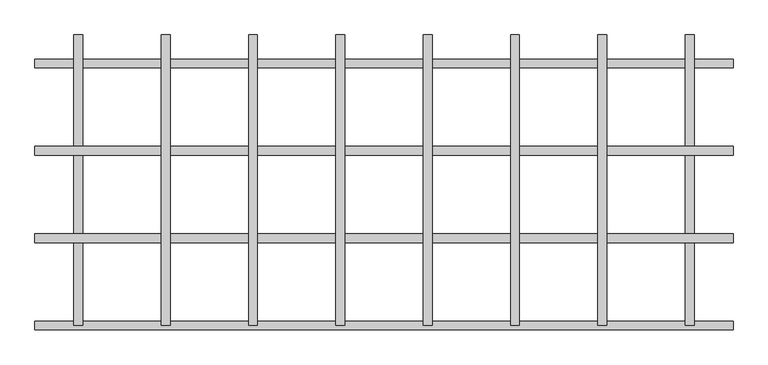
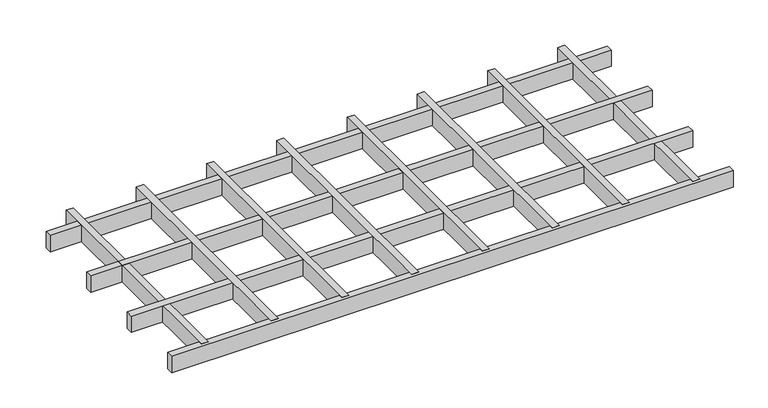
"""IFC4 building model written with IfcOpenShell, lengths in millimetres: proxy geometry, durlum_GEO_panel : durlum_GEO_15_width_cut."""

import ifcopenshell
import ifcopenshell.guid

model = None  # the IFC model being written
_history = None  # IfcOwnerHistory: only IFC2X3 demands one
_inside = {}  # id of a spatial element -> (the spatial element, [elements in it])
_under = {}  # id of a project, library or spatial element -> (it, [spatial elements below it])
_declared = {}  # id of a project -> (the project, [libraries it declares])
_typed = {}  # id of a type object -> (the type object, [elements of that type])
_made_of = {}  # id of a material, layer set ... -> (it, [elements and type objects made of it])


def new_model(schema):
    """Start an empty IFC model of exactly this schema.

    Asked for "IFC4X3", IfcOpenShell would pick the latest addendum, in which some entities
    have other attributes; the version numbers below select the first issue.
    IFC2X3 requires an IfcOwnerHistory on every rooted entity: one is made here for all.
    """
    global model, _history
    if schema == "IFC4X3":
        model = ifcopenshell.file(schema_version=(4, 3, 0, 0))
    else:
        model = ifcopenshell.file(schema=schema)
    _inside.clear()
    _under.clear()
    _declared.clear()
    _typed.clear()
    _made_of.clear()
    _history = None
    if model.schema == "IFC2X3":
        org = make("IfcOrganization", Name="unknown")
        user = make(
            "IfcPersonAndOrganization",
            ThePerson=make("IfcPerson", FamilyName="unknown"),
            TheOrganization=org,
        )
        app = make(
            "IfcApplication",
            ApplicationDeveloper=org,
            Version="unknown",
            ApplicationFullName="unknown",
            ApplicationIdentifier="unknown",
        )
        _history = make(
            "IfcOwnerHistory",
            OwningUser=user,
            OwningApplication=app,
            ChangeAction="ADDED",
            CreationDate=0,
        )
    return model


def make(cls, **values):
    """One entity of the class cls with the attributes given. An attribute that is None is left unset."""
    return model.create_entity(
        cls, **{name: value for name, value in values.items() if value is not None}
    )


def rooted(cls, **values):
    """An entity with a GlobalId (a new one), such as an element, a storey or a relation."""
    return make(cls, GlobalId=ifcopenshell.guid.new(), OwnerHistory=_history, **values)


def si_unit(unit_type, name, prefix=None):
    """IfcSIUnit, for example si_unit("LENGTHUNIT", "METRE", prefix="MILLI")."""
    return make("IfcSIUnit", UnitType=unit_type, Prefix=prefix, Name=name)


def assignment(units):
    """IfcUnitAssignment: the units of a project."""
    return None if units is None else make("IfcUnitAssignment", Units=units)


def point(xyz):
    """IfcCartesianPoint."""
    return None if xyz is None else make("IfcCartesianPoint", Coordinates=xyz)


def direction(xyz):
    """IfcDirection."""
    return None if xyz is None else make("IfcDirection", DirectionRatios=xyz)


def frame(location, z_axis=None, x_axis=None):
    """IfcAxis2Placement3D, a coordinate frame: its origin and axes. An axis left out is left unset."""
    return make(
        "IfcAxis2Placement3D",
        Location=point(location),
        Axis=direction(z_axis),
        RefDirection=direction(x_axis),
    )


def origin():
    """The frame at (0, 0, 0) with its axes left unset."""
    return frame((0.0, 0.0, 0.0))


def origin_with_axes():
    """The frame at (0, 0, 0) with the z axis (0, 0, 1) and the x axis (1, 0, 0) written out."""
    return frame((0.0, 0.0, 0.0), z_axis=(0.0, 0.0, 1.0), x_axis=(1.0, 0.0, 0.0))


def place(relative_to, where):
    """IfcLocalPlacement: puts the frame where relative to a parent placement (None: the world)."""
    return make(
        "IfcLocalPlacement", PlacementRelTo=relative_to, RelativePlacement=where
    )


def context(
    kind, dimensions, precision=None, world=None, true_north=None, identifier=None
):
    """IfcGeometricRepresentationContext, for example the 3D "Model" context."""
    return make(
        "IfcGeometricRepresentationContext",
        ContextIdentifier=identifier,
        ContextType=kind,
        CoordinateSpaceDimension=dimensions,
        Precision=precision,
        WorldCoordinateSystem=world,
        TrueNorth=true_north,
    )


def project(units=None, contexts=None):
    """IfcProject with its units and contexts."""
    return rooted(
        "IfcProject",
        Name="project",
        RepresentationContexts=contexts,
        UnitsInContext=assignment(units),
    )


def spatial(cls, under=None, at=None, **own):
    """A site, building, storey or space (cls), placed at a placement, below another one or the project."""
    s = rooted(cls, ObjectPlacement=at, **own)
    if under is not None:
        _under.setdefault(under.id(), (under, []))[1].append(s)
    return s


def polyline(points):
    """IfcPolyline through the points."""
    return make("IfcPolyline", Points=[point(p) for p in points])


def outline(outer, holes=None, kind="AREA"):
    """IfcArbitraryClosedProfileDef: a profile drawn as a closed curve; with holes, ...WithVoids."""
    if holes is None:
        return make("IfcArbitraryClosedProfileDef", ProfileType=kind, OuterCurve=outer)
    return make(
        "IfcArbitraryProfileDefWithVoids",
        ProfileType=kind,
        OuterCurve=outer,
        InnerCurves=holes,
    )


def extrude(swept, where, along, depth):
    """IfcExtrudedAreaSolid: the profile swept, set in the frame where, extruded along a direction by depth."""
    return make(
        "IfcExtrudedAreaSolid",
        SweptArea=swept,
        Position=where,
        ExtrudedDirection=direction(along),
        Depth=depth,
    )


def shape(context_of_items, identifier, shape_type, items):
    """IfcShapeRepresentation: the items that make up one representation, for example the "Body"."""
    return make(
        "IfcShapeRepresentation",
        ContextOfItems=context_of_items,
        RepresentationIdentifier=identifier,
        RepresentationType=shape_type,
        Items=items,
    )


def source(mapping_origin, context_of_items, identifier, shape_type, items):
    """IfcRepresentationMap: a shape defined once, which mapped items show again and again."""
    return make(
        "IfcRepresentationMap",
        MappingOrigin=mapping_origin,
        MappedRepresentation=shape(context_of_items, identifier, shape_type, items),
    )


def transform(
    local_origin,
    x_axis=None,
    y_axis=None,
    z_axis=None,
    scale=None,
    scale2=None,
    scale3=None,
    uniform=True,
):
    """IfcCartesianTransformationOperator3D, or its non-uniform kind. x_axis, y_axis, z_axis: its Axis1, 2, 3."""
    if uniform:
        return make(
            "IfcCartesianTransformationOperator3D",
            Axis1=direction(x_axis),
            Axis2=direction(y_axis),
            LocalOrigin=point(local_origin),
            Scale=scale,
            Axis3=direction(z_axis),
        )
    return make(
        "IfcCartesianTransformationOperator3DnonUniform",
        Axis1=direction(x_axis),
        Axis2=direction(y_axis),
        LocalOrigin=point(local_origin),
        Scale=scale,
        Axis3=direction(z_axis),
        Scale2=scale2,
        Scale3=scale3,
    )


def mapped(mapping_source, mapping_target):
    """IfcMappedItem: shows the shape of a source again, moved by a transform."""
    return make(
        "IfcMappedItem", MappingSource=mapping_source, MappingTarget=mapping_target
    )


def made_of(thing, what):
    """Note that an element or type object is made of a material, layer set ...; save() writes the relation."""
    if what is not None:
        _made_of.setdefault(what.id(), (what, []))[1].append(thing)
    return thing


def element(
    cls,
    number,
    at=None,
    inside=None,
    cuts=None,
    type_object=None,
    material=None,
    context=None,
    identifier="Body",
    shape_type=None,
    held_by="IfcProductDefinitionShape",
    body=None,
    shapes=None,
    **own,
):
    """One element of the class cls, such as IfcWall. Its Tag is "e" and its number.

    at: its placement. inside: the storey or other place that contains it. cuts: it is an
    opening in that element (IfcRelVoidsElement). A single representation is given by context,
    identifier, shape_type and body (its items); several are given by shapes. held_by: the class
    of the entity that holds the representations. save() writes the other relations.
    """
    e = rooted(cls, Tag="e%d" % number, ObjectPlacement=at, **own)
    if body is not None:
        shapes = [shape(context, identifier, shape_type, body)]
    if shapes is not None:
        e.Representation = make(held_by, Representations=shapes)
    if inside is not None:
        _inside.setdefault(inside.id(), (inside, []))[1].append(e)
    if cuts is not None:
        rooted(
            "IfcRelVoidsElement", RelatingBuildingElement=cuts, RelatedOpeningElement=e
        )
    if type_object is not None:
        _typed.setdefault(type_object.id(), (type_object, []))[1].append(e)
    return made_of(e, material)


def aggregate(whole, parts):
    """IfcRelAggregates: a whole, such as a stair, and the parts it consists of."""
    return rooted("IfcRelAggregates", RelatingObject=whole, RelatedObjects=parts)


def save(model, path):
    """Write the relations noted so far, then the file.

    IfcRelAggregates (storeys below a building ...), IfcRelContainedInSpatialStructure (elements
    in a storey), IfcRelDefinesByType, IfcRelAssociatesMaterial and IfcRelDeclares: one each for
    every whole, place, type object, material and project.
    """
    for whole, parts in _under.values():
        aggregate(whole, parts)
    for where, things in _inside.values():
        rooted(
            "IfcRelContainedInSpatialStructure",
            RelatedElements=things,
            RelatingStructure=where,
        )
    for kind, things in _typed.values():
        rooted("IfcRelDefinesByType", RelatedObjects=things, RelatingType=kind)
    for what, things in _made_of.values():
        rooted("IfcRelAssociatesMaterial", RelatedObjects=things, RelatingMaterial=what)
    for by, libraries in _declared.values():
        rooted("IfcRelDeclares", RelatingContext=by, RelatedDefinitions=libraries)
    model.write(path)


def generic_models_2927a7a0(model_context):
    return source(origin(), model_context, "Body", "SweptSolid", [
        extrude(outline(polyline([(367.5, 249.5), (382.5, 249.5), (382.5, -249.5), (367.5, -249.5), (367.5, 249.5)])), origin_with_axes(), (0.0, 0.0, 1.0), 37.0),
        extrude(outline(polyline([(217.5, 249.5), (232.5, 249.5), (232.5, -249.5), (217.5, -249.5), (217.5, 249.5)])), origin_with_axes(), (0.0, 0.0, 1.0), 37.0),
        extrude(outline(polyline([(67.5, 249.5), (82.5, 249.5), (82.5, -249.5), (67.5, -249.5), (67.5, 249.5)])), origin_with_axes(), (0.0, 0.0, 1.0), 37.0),
        extrude(outline(polyline([(-82.5, 249.5), (-67.5, 249.5), (-67.5, -249.5), (-82.5, -249.5), (-82.5, 249.5)])), origin_with_axes(), (0.0, 0.0, 1.0), 37.0),
        extrude(outline(polyline([(-232.5, 249.5), (-217.5, 249.5), (-217.5, -249.5), (-232.5, -249.5), (-232.5, 249.5)])), origin_with_axes(), (0.0, 0.0, 1.0), 37.0),
        extrude(outline(polyline([(-382.5, 249.5), (-367.5, 249.5), (-367.5, -249.5), (-382.5, -249.5), (-382.5, 249.5)])), origin_with_axes(), (0.0, 0.0, 1.0), 37.0),
        extrude(outline(polyline([(599.5, -92.0), (599.5, -107.0), (-599.5, -107.0), (-599.5, -92.0), (599.5, -92.0)])), origin_with_axes(), (0.0, 0.0, 1.0), 37.0),
        extrude(outline(polyline([(599.5, 58.0), (599.5, 43.0), (-599.5, 43.0), (-599.5, 58.0), (599.5, 58.0)])), origin_with_axes(), (0.0, 0.0, 1.0), 37.0),
        extrude(outline(polyline([(517.5, 249.5), (532.5, 249.5), (532.5, -249.5), (517.5, -249.5), (517.5, 249.5)])), origin_with_axes(), (0.0, 0.0, 1.0), 37.0),
        extrude(outline(polyline([(-532.5, 249.5), (-517.5, 249.5), (-517.5, -249.5), (-532.5, -249.5), (-532.5, 249.5)])), origin_with_axes(), (0.0, 0.0, 1.0), 37.0),
        extrude(outline(polyline([(599.5, -242.0), (599.5, -257.0), (-599.5, -257.0), (-599.5, -242.0), (599.5, -242.0)])), origin_with_axes(), (0.0, 0.0, 1.0), 37.0),
        extrude(outline(polyline([(599.5, 208.0), (599.5, 193.0), (-599.5, 193.0), (-599.5, 208.0), (599.5, 208.0)])), origin_with_axes(), (0.0, 0.0, 1.0), 37.0),
    ])


if __name__ == "__main__":
    model = new_model("IFC4")
    model_context = context("Model", 3, world=origin())
    ifc_project = project(units=[si_unit("LENGTHUNIT", "METRE", prefix="MILLI")], contexts=[model_context])
    site = spatial("IfcSite", under=ifc_project)
    building = spatial("IfcBuilding", under=site)
    placement = place(None, origin())
    generic_models_shape = generic_models_2927a7a0(model_context)
    element("IfcBuildingElementProxy", 1, Name="durlum_GEO_panel : durlum_GEO_15_width_cut", ObjectType="durlum_GEO_panel : durlum_GEO_15_width_cut", at=placement, inside=building, context=model_context, shape_type="MappedRepresentation", body=[
        mapped(generic_models_shape, transform((0.0, 0.0, 0.0), x_axis=(1.0, 0.0, 0.0), y_axis=(0.0, 1.0, 0.0), z_axis=(0.0, 0.0, 1.0))),
    ])
    save(model, "model.ifc")
